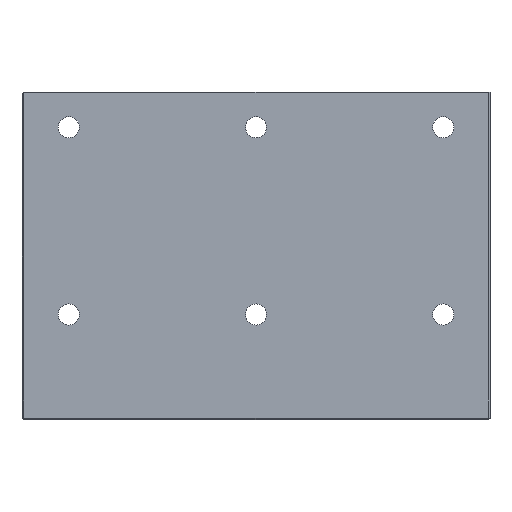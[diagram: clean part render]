
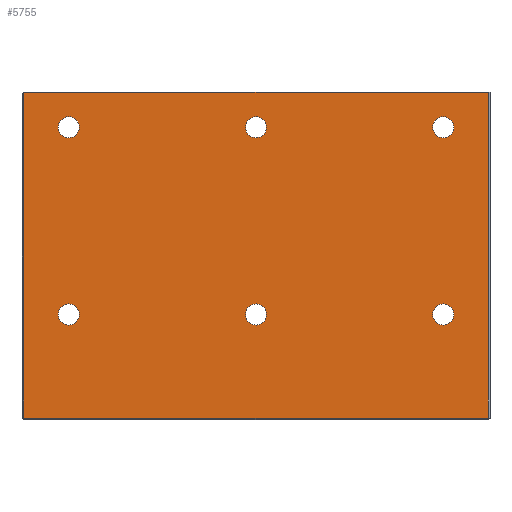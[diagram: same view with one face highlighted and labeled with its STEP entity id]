
A CAD part, front view. The second image highlights one B-rep face of the part: STEP entity #5755.
In plain terms, the highlighted planar face has unit normal (0, -1, 0).
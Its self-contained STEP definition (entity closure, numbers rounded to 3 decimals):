
#667=DIRECTION('',(0.,0.,-1.));
#668=VECTOR('',#667,278.5);
#669=CARTESIAN_POINT('',(198.5,0.,280.));
#670=LINE('',#669,#668);
#671=DIRECTION('',(-1.,0.,0.));
#672=VECTOR('',#671,397.);
#673=CARTESIAN_POINT('',(198.5,0.,1.5));
#674=LINE('',#673,#672);
#675=DIRECTION('',(0.,0.,1.));
#676=VECTOR('',#675,278.5);
#677=CARTESIAN_POINT('',(-198.5,0.,1.5));
#678=LINE('',#677,#676);
#679=DIRECTION('',(1.,0.,0.));
#680=VECTOR('',#679,397.);
#681=CARTESIAN_POINT('',(-198.5,0.,280.));
#682=LINE('',#681,#680);
#683=CARTESIAN_POINT('',(160.,0.,90.));
#684=DIRECTION('',(0.,1.,0.));
#685=DIRECTION('',(1.,0.,0.));
#686=AXIS2_PLACEMENT_3D('',#683,#684,#685);
#688=CARTESIAN_POINT('',(160.,0.,90.));
#689=DIRECTION('',(0.,1.,0.));
#690=DIRECTION('',(-1.,0.,0.));
#691=AXIS2_PLACEMENT_3D('',#688,#689,#690);
#693=CARTESIAN_POINT('',(160.,0.,250.));
#694=DIRECTION('',(0.,1.,0.));
#695=DIRECTION('',(1.,0.,0.));
#696=AXIS2_PLACEMENT_3D('',#693,#694,#695);
#698=CARTESIAN_POINT('',(160.,0.,250.));
#699=DIRECTION('',(0.,1.,0.));
#700=DIRECTION('',(-1.,0.,0.));
#701=AXIS2_PLACEMENT_3D('',#698,#699,#700);
#703=CARTESIAN_POINT('',(0.,0.,90.));
#704=DIRECTION('',(0.,1.,0.));
#705=DIRECTION('',(1.,0.,0.));
#706=AXIS2_PLACEMENT_3D('',#703,#704,#705);
#708=CARTESIAN_POINT('',(0.,0.,90.));
#709=DIRECTION('',(0.,1.,0.));
#710=DIRECTION('',(-1.,0.,0.));
#711=AXIS2_PLACEMENT_3D('',#708,#709,#710);
#713=CARTESIAN_POINT('',(0.,0.,250.));
#714=DIRECTION('',(0.,1.,0.));
#715=DIRECTION('',(1.,0.,0.));
#716=AXIS2_PLACEMENT_3D('',#713,#714,#715);
#718=CARTESIAN_POINT('',(0.,0.,250.));
#719=DIRECTION('',(0.,1.,0.));
#720=DIRECTION('',(-1.,0.,0.));
#721=AXIS2_PLACEMENT_3D('',#718,#719,#720);
#723=CARTESIAN_POINT('',(-160.,0.,90.));
#724=DIRECTION('',(0.,1.,0.));
#725=DIRECTION('',(1.,0.,0.));
#726=AXIS2_PLACEMENT_3D('',#723,#724,#725);
#728=CARTESIAN_POINT('',(-160.,0.,90.));
#729=DIRECTION('',(0.,1.,0.));
#730=DIRECTION('',(-1.,0.,0.));
#731=AXIS2_PLACEMENT_3D('',#728,#729,#730);
#733=CARTESIAN_POINT('',(-160.,0.,250.));
#734=DIRECTION('',(0.,1.,0.));
#735=DIRECTION('',(1.,0.,0.));
#736=AXIS2_PLACEMENT_3D('',#733,#734,#735);
#738=CARTESIAN_POINT('',(-160.,0.,250.));
#739=DIRECTION('',(0.,1.,0.));
#740=DIRECTION('',(-1.,0.,0.));
#741=AXIS2_PLACEMENT_3D('',#738,#739,#740);
#4045=CARTESIAN_POINT('',(198.5,0.,280.));
#4047=VERTEX_POINT('',#4045);
#4051=CARTESIAN_POINT('',(198.5,0.,1.5));
#4052=VERTEX_POINT('',#4051);
#4057=CARTESIAN_POINT('',(-198.5,0.,1.5));
#4058=VERTEX_POINT('',#4057);
#4071=CARTESIAN_POINT('',(-198.5,0.,280.));
#4072=VERTEX_POINT('',#4071);
#4145=CARTESIAN_POINT('',(169.,0.,90.));
#4146=CARTESIAN_POINT('',(151.,0.,90.));
#4147=VERTEX_POINT('',#4145);
#4148=VERTEX_POINT('',#4146);
#4161=CARTESIAN_POINT('',(169.,0.,250.));
#4162=CARTESIAN_POINT('',(151.,0.,250.));
#4163=VERTEX_POINT('',#4161);
#4164=VERTEX_POINT('',#4162);
#4177=CARTESIAN_POINT('',(9.,0.,90.));
#4178=VERTEX_POINT('',#4177);
#4179=CARTESIAN_POINT('',(-9.,0.,90.));
#4180=VERTEX_POINT('',#4179);
#4193=CARTESIAN_POINT('',(9.,0.,250.));
#4194=VERTEX_POINT('',#4193);
#4195=CARTESIAN_POINT('',(-9.,0.,250.));
#4196=VERTEX_POINT('',#4195);
#4209=CARTESIAN_POINT('',(-151.,0.,90.));
#4210=VERTEX_POINT('',#4209);
#4211=CARTESIAN_POINT('',(-169.,0.,90.));
#4212=VERTEX_POINT('',#4211);
#4225=CARTESIAN_POINT('',(-151.,0.,250.));
#4226=VERTEX_POINT('',#4225);
#4227=CARTESIAN_POINT('',(-169.,0.,250.));
#4228=VERTEX_POINT('',#4227);
#5708=CARTESIAN_POINT('',(-200.,0.,280.));
#5709=DIRECTION('',(0.,-1.,0.));
#5710=DIRECTION('',(0.,0.,-1.));
#5711=AXIS2_PLACEMENT_3D('',#5708,#5709,#5710);
#5712=PLANE('',#5711);
#5713=ORIENTED_EDGE('',*,*,#5703,.T.);
#5714=ORIENTED_EDGE('',*,*,#5468,.T.);
#5715=ORIENTED_EDGE('',*,*,#5485,.T.);
#5716=ORIENTED_EDGE('',*,*,#5670,.T.);
#5717=EDGE_LOOP('',(#5713,#5714,#5715,#5716));
#5718=FACE_OUTER_BOUND('',#5717,.F.);
#5720=ORIENTED_EDGE('',*,*,#5719,.F.);
#5722=ORIENTED_EDGE('',*,*,#5721,.F.);
#5723=EDGE_LOOP('',(#5720,#5722));
#5724=FACE_BOUND('',#5723,.F.);
#5726=ORIENTED_EDGE('',*,*,#5725,.F.);
#5728=ORIENTED_EDGE('',*,*,#5727,.F.);
#5729=EDGE_LOOP('',(#5726,#5728));
#5730=FACE_BOUND('',#5729,.F.);
#5732=ORIENTED_EDGE('',*,*,#5731,.F.);
#5734=ORIENTED_EDGE('',*,*,#5733,.F.);
#5735=EDGE_LOOP('',(#5732,#5734));
#5736=FACE_BOUND('',#5735,.F.);
#5738=ORIENTED_EDGE('',*,*,#5737,.F.);
#5740=ORIENTED_EDGE('',*,*,#5739,.F.);
#5741=EDGE_LOOP('',(#5738,#5740));
#5742=FACE_BOUND('',#5741,.F.);
#5744=ORIENTED_EDGE('',*,*,#5743,.F.);
#5746=ORIENTED_EDGE('',*,*,#5745,.F.);
#5747=EDGE_LOOP('',(#5744,#5746));
#5748=FACE_BOUND('',#5747,.F.);
#5750=ORIENTED_EDGE('',*,*,#5749,.F.);
#5752=ORIENTED_EDGE('',*,*,#5751,.F.);
#5753=EDGE_LOOP('',(#5750,#5752));
#5754=FACE_BOUND('',#5753,.F.);
#5755=ADVANCED_FACE('',(#5718,#5724,#5730,#5736,#5742,#5748,#5754),#5712,.T.);
#687=CIRCLE('',#686,9.);
#692=CIRCLE('',#691,9.);
#697=CIRCLE('',#696,9.);
#702=CIRCLE('',#701,9.);
#707=CIRCLE('',#706,9.);
#712=CIRCLE('',#711,9.);
#717=CIRCLE('',#716,9.);
#722=CIRCLE('',#721,9.);
#727=CIRCLE('',#726,9.);
#732=CIRCLE('',#731,9.);
#737=CIRCLE('',#736,9.);
#742=CIRCLE('',#741,9.);
#5468=EDGE_CURVE('',#4052,#4058,#674,.T.);
#5485=EDGE_CURVE('',#4058,#4072,#678,.T.);
#5670=EDGE_CURVE('',#4072,#4047,#682,.T.);
#5703=EDGE_CURVE('',#4047,#4052,#670,.T.);
#5719=EDGE_CURVE('',#4147,#4148,#687,.T.);
#5721=EDGE_CURVE('',#4148,#4147,#692,.T.);
#5725=EDGE_CURVE('',#4163,#4164,#697,.T.);
#5727=EDGE_CURVE('',#4164,#4163,#702,.T.);
#5731=EDGE_CURVE('',#4178,#4180,#707,.T.);
#5733=EDGE_CURVE('',#4180,#4178,#712,.T.);
#5737=EDGE_CURVE('',#4194,#4196,#717,.T.);
#5739=EDGE_CURVE('',#4196,#4194,#722,.T.);
#5743=EDGE_CURVE('',#4210,#4212,#727,.T.);
#5745=EDGE_CURVE('',#4212,#4210,#732,.T.);
#5749=EDGE_CURVE('',#4226,#4228,#737,.T.);
#5751=EDGE_CURVE('',#4228,#4226,#742,.T.);
